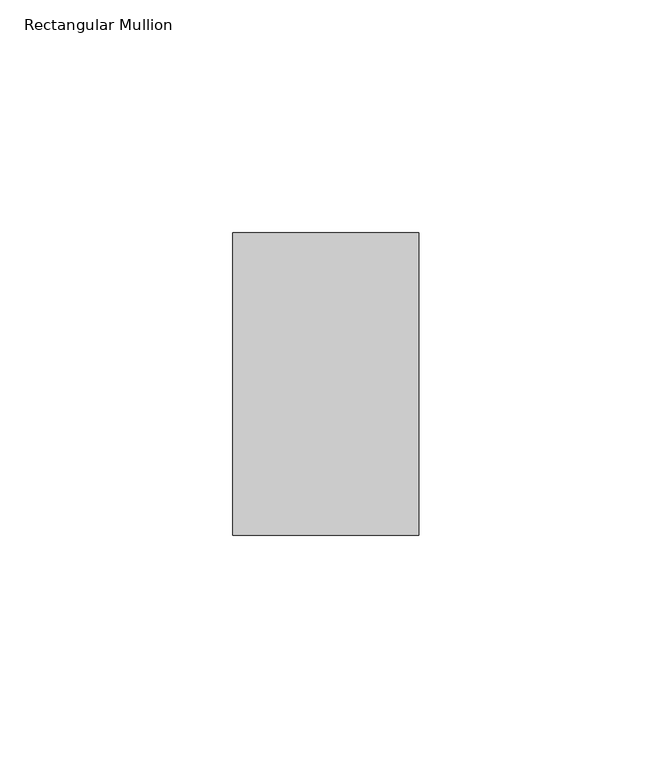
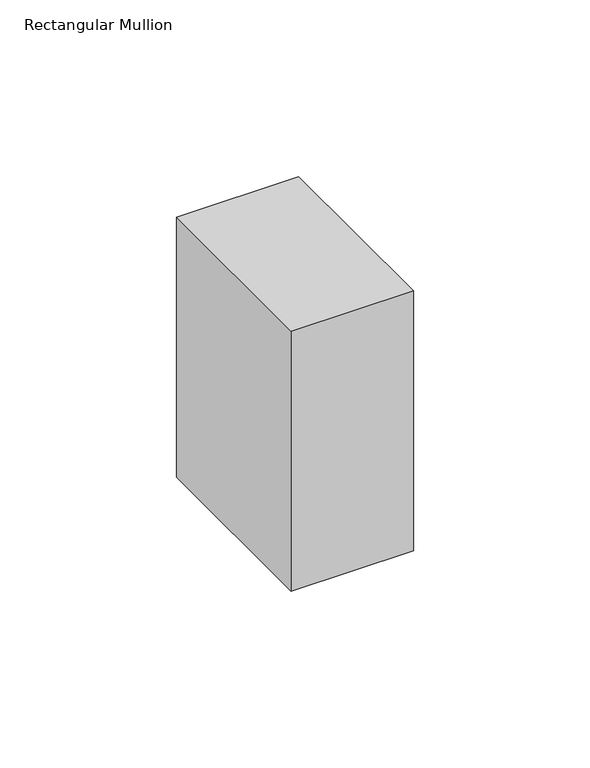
"""IFC4 building model written with IfcOpenShell, lengths in millimetres: member geometry, Rectangular Mullion : Batten_Timber_Modinex_Austratus_Grid_Fascia_40x65_AlaskanYellowCedar."""

from ifc_helpers import new_model, si_unit, frame, origin, place, context, project, spatial, polyline, outline, extrude, source, transform, mapped, element, save


def rectangular_mullion_78309e0b(model_context):
    return source(origin(), model_context, "Body", "SweptSolid", [
        extrude(outline(polyline([(-40.0, 65.0), (0.0, 65.0), (0.0, 0.0), (-40.0, 0.0), (-40.0, 65.0)])), frame((0.0, 0.0, -89.9999997), z_axis=(0.0, 0.0, 1.0), x_axis=(1.0, 0.0, 0.0)), (0.0, 0.0, 1.0), 89.9999997),
    ])


if __name__ == "__main__":
    model = new_model("IFC4")
    model_context = context("Model", 3, world=origin())
    ifc_project = project(units=[si_unit("LENGTHUNIT", "METRE", prefix="MILLI")], contexts=[model_context])
    site = spatial("IfcSite", under=ifc_project)
    building = spatial("IfcBuilding", under=site)
    placement = place(None, origin())
    rectangular_mullion_shape = rectangular_mullion_78309e0b(model_context)
    element("IfcMember", 1, ObjectType="Rectangular Mullion : Batten_Timber_Modinex_Austratus_Grid_Fascia_40x65_AlaskanYellowCedar", at=placement, inside=building, context=model_context, shape_type="MappedRepresentation", body=[
        mapped(rectangular_mullion_shape, transform((0.0, 0.0, 0.0), x_axis=(1.0, 0.0, 0.0), y_axis=(0.0, 1.0, 0.0), z_axis=(0.0, 0.0, 1.0))),
    ])
    save(model, "model.ifc")
